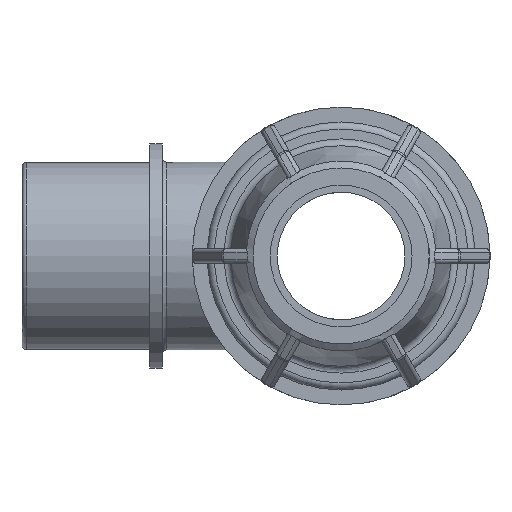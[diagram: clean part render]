
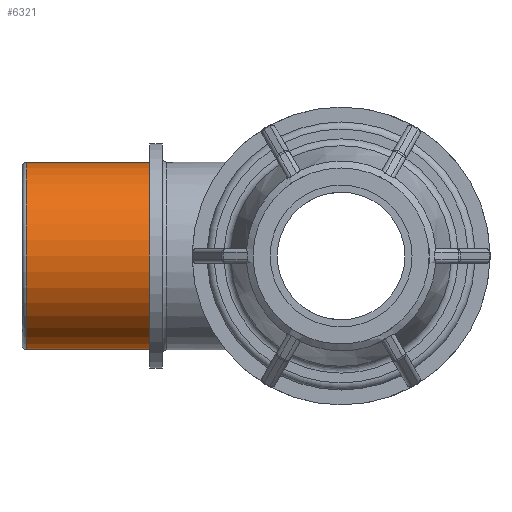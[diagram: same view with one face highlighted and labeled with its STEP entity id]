
A CAD part, left-side view. The second image highlights one B-rep face of the part: STEP entity #6321.
In plain terms, the highlighted cylindrical face has radius 13.22 mm (diameter 26.441 mm), a full revolution.
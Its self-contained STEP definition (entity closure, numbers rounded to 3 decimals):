
#1375=CIRCLE('',#7078,13.221);
#1377=CIRCLE('',#7081,13.221);
#1434=FACE_BOUND('',#2478,.T.);
#2030=FACE_OUTER_BOUND('',#2477,.T.);
#2477=EDGE_LOOP('',(#5776));
#2478=EDGE_LOOP('',(#5777));
#3031=VERTEX_POINT('',#12127);
#3033=VERTEX_POINT('',#12132);
#3949=EDGE_CURVE('',#3031,#3031,#1375,.T.);
#3951=EDGE_CURVE('',#3033,#3033,#1377,.T.);
#5776=ORIENTED_EDGE('',*,*,#3951,.T.);
#5777=ORIENTED_EDGE('',*,*,#3949,.F.);
#5913=CYLINDRICAL_SURFACE('',#7080,13.221);
#6321=ADVANCED_FACE('',(#2030,#1434),#5913,.T.);
#7078=AXIS2_PLACEMENT_3D('',#12128,#8949,#8950);
#7080=AXIS2_PLACEMENT_3D('',#12131,#8953,#8954);
#7081=AXIS2_PLACEMENT_3D('',#12133,#8955,#8956);
#8949=DIRECTION('center_axis',(0.,1.,0.));
#8950=DIRECTION('ref_axis',(1.,0.,0.));
#8953=DIRECTION('center_axis',(0.,1.,0.));
#8954=DIRECTION('ref_axis',(-1.,0.,0.));
#8955=DIRECTION('center_axis',(0.,1.,0.));
#8956=DIRECTION('ref_axis',(1.,0.,0.));
#12127=CARTESIAN_POINT('',(-13.221,44.4,0.));
#12128=CARTESIAN_POINT('Origin',(0.,44.4,0.));
#12131=CARTESIAN_POINT('Origin',(0.,36.,0.));
#12132=CARTESIAN_POINT('',(-13.221,27.,0.));
#12133=CARTESIAN_POINT('Origin',(0.,27.,0.));
